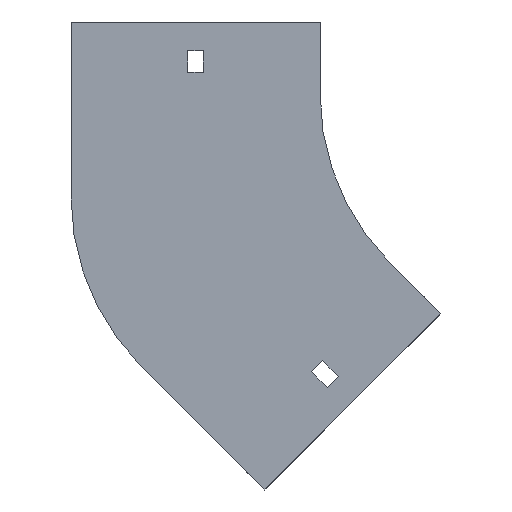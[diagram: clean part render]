
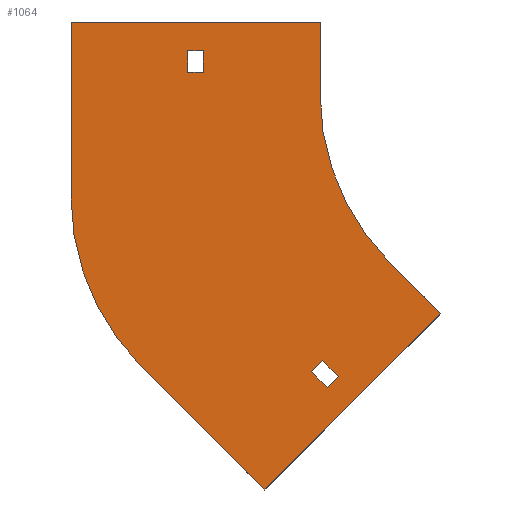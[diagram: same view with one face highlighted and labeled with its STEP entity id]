
A CAD part, front view. The second image highlights one B-rep face of the part: STEP entity #1064.
In plain terms, the highlighted planar face has unit normal (0, -1, 0).
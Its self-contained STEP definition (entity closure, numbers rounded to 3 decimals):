
#12 = DIRECTION ( 'NONE',  ( 0.707, 0., 0.707 ) ) ;
#22 = CARTESIAN_POINT ( 'NONE',  ( -204., 0., 30. ) ) ;
#47 = DIRECTION ( 'NONE',  ( -0.707, 0., -0.707 ) ) ;
#82 = LINE ( 'NONE', #236, #768 ) ;
#90 = DIRECTION ( 'NONE',  ( 0., 0., -1. ) ) ;
#92 = DIRECTION ( 'NONE',  ( 0., 0., -1. ) ) ;
#98 = CARTESIAN_POINT ( 'NONE',  ( -97.05, 0., -122.506 ) ) ;
#163 = VECTOR ( 'NONE', #1201, 1000. ) ;
#166 = ORIENTED_EDGE ( 'NONE', *, *, #261, .F. ) ;
#202 = EDGE_CURVE ( 'NONE', #447, #826, #564, .T. ) ;
#210 = FACE_OUTER_BOUND ( 'NONE', #704, .T. ) ;
#220 = FACE_BOUND ( 'NONE', #1244, .T. ) ;
#228 = EDGE_CURVE ( 'NONE', #1907, #346, #253, .T. ) ;
#234 = VECTOR ( 'NONE', #90, 1000. ) ;
#236 = CARTESIAN_POINT ( 'NONE',  ( -148.75, 0., 9. ) ) ;
#242 = DIRECTION ( 'NONE',  ( -1., 0., 0. ) ) ;
#246 = EDGE_LOOP ( 'NONE', ( #166, #1623, #1744, #288 ) ) ;
#253 = LINE ( 'NONE', #845, #1363 ) ;
#261 = EDGE_CURVE ( 'NONE', #826, #914, #727, .T. ) ;
#272 = DIRECTION ( 'NONE',  ( -0.707, 0., 0.707 ) ) ;
#279 = VECTOR ( 'NONE', #1741, 1000. ) ;
#288 = ORIENTED_EDGE ( 'NONE', *, *, #501, .F. ) ;
#297 = ORIENTED_EDGE ( 'NONE', *, *, #1025, .F. ) ;
#311 = AXIS2_PLACEMENT_3D ( 'NONE', #926, #1525, #661 ) ;
#328 = ORIENTED_EDGE ( 'NONE', *, *, #1524, .F. ) ;
#329 = DIRECTION ( 'NONE',  ( 0., 0., 1. ) ) ;
#345 = VECTOR ( 'NONE', #422, 1000. ) ;
#346 = VERTEX_POINT ( 'NONE', #22 ) ;
#360 = VECTOR ( 'NONE', #1219, 1000. ) ;
#362 = CARTESIAN_POINT ( 'NONE',  ( 0., 0., 0. ) ) ;
#367 = VECTOR ( 'NONE', #1431, 1000. ) ;
#422 = DIRECTION ( 'NONE',  ( 0., 0., 1. ) ) ;
#433 = CARTESIAN_POINT ( 'NONE',  ( -49.497, 0., -91.924 ) ) ;
#435 = CARTESIAN_POINT ( 'NONE',  ( -98.818, 0., -111.546 ) ) ;
#447 = VERTEX_POINT ( 'NONE', #1934 ) ;
#492 = DIRECTION ( 'NONE',  ( 0., 1., 0. ) ) ;
#499 = ORIENTED_EDGE ( 'NONE', *, *, #805, .F. ) ;
#501 = EDGE_CURVE ( 'NONE', #914, #676, #1180, .T. ) ;
#517 = DIRECTION ( 'NONE',  ( 0., 0., -1. ) ) ;
#525 = VERTEX_POINT ( 'NONE', #899 ) ;
#532 = DIRECTION ( 'NONE',  ( 1., 0., 0. ) ) ;
#538 = ORIENTED_EDGE ( 'NONE', *, *, #1894, .F. ) ;
#550 = LINE ( 'NONE', #1597, #234 ) ;
#555 = ORIENTED_EDGE ( 'NONE', *, *, #965, .F. ) ;
#564 = LINE ( 'NONE', #958, #367 ) ;
#588 = ORIENTED_EDGE ( 'NONE', *, *, #774, .T. ) ;
#609 = CARTESIAN_POINT ( 'NONE',  ( -100., 0., 30. ) ) ;
#618 = CIRCLE ( 'NONE', #1112, 100. ) ;
#658 = VERTEX_POINT ( 'NONE', #1408 ) ;
#661 = DIRECTION ( 'NONE',  ( 0., 0., -1. ) ) ;
#670 = CARTESIAN_POINT ( 'NONE',  ( -204., 0., -43.078 ) ) ;
#676 = VERTEX_POINT ( 'NONE', #1892 ) ;
#704 = EDGE_LOOP ( 'NONE', ( #328, #1511, #297, #992, #1101, #499, #555, #538 ) ) ;
#707 = CARTESIAN_POINT ( 'NONE',  ( -155.25, 0., 9. ) ) ;
#727 = LINE ( 'NONE', #1806, #862 ) ;
#743 = VERTEX_POINT ( 'NONE', #1309 ) ;
#755 = VERTEX_POINT ( 'NONE', #1158 ) ;
#758 = LINE ( 'NONE', #1213, #163 ) ;
#765 = DIRECTION ( 'NONE',  ( -0.707, 0., 0.707 ) ) ;
#768 = VECTOR ( 'NONE', #92, 1000. ) ;
#774 = EDGE_CURVE ( 'NONE', #1316, #1047, #852, .T. ) ;
#788 = CARTESIAN_POINT ( 'NONE',  ( -104., 0., -43.078 ) ) ;
#796 = FACE_BOUND ( 'NONE', #246, .T. ) ;
#805 = EDGE_CURVE ( 'NONE', #1345, #1678, #1606, .T. ) ;
#820 = EDGE_CURVE ( 'NONE', #755, #1316, #973, .T. ) ;
#823 = CARTESIAN_POINT ( 'NONE',  ( -70.711, 0., -70.711 ) ) ;
#826 = VERTEX_POINT ( 'NONE', #98 ) ;
#845 = CARTESIAN_POINT ( 'NONE',  ( -204., 0., -43.078 ) ) ;
#852 = LINE ( 'NONE', #707, #345 ) ;
#862 = VECTOR ( 'NONE', #12, 1000. ) ;
#865 = CIRCLE ( 'NONE', #311, 100. ) ;
#899 = CARTESIAN_POINT ( 'NONE',  ( -174.711, 0., -113.789 ) ) ;
#908 = ORIENTED_EDGE ( 'NONE', *, *, #1828, .T. ) ;
#914 = VERTEX_POINT ( 'NONE', #1485 ) ;
#926 = CARTESIAN_POINT ( 'NONE',  ( 0., 0., 0. ) ) ;
#941 = ORIENTED_EDGE ( 'NONE', *, *, #820, .T. ) ;
#947 = CARTESIAN_POINT ( 'NONE',  ( -123.037, 0., -165.463 ) ) ;
#949 = DIRECTION ( 'NONE',  ( 0., -1., 0. ) ) ;
#958 = CARTESIAN_POINT ( 'NONE',  ( -103.414, 0., -116.142 ) ) ;
#964 = CARTESIAN_POINT ( 'NONE',  ( -204., 0., 30. ) ) ;
#965 = EDGE_CURVE ( 'NONE', #1303, #1345, #865, .T. ) ;
#973 = LINE ( 'NONE', #1574, #1428 ) ;
#975 = VECTOR ( 'NONE', #47, 1000. ) ;
#992 = ORIENTED_EDGE ( 'NONE', *, *, #1710, .F. ) ;
#1025 = EDGE_CURVE ( 'NONE', #525, #1907, #618, .T. ) ;
#1047 = VERTEX_POINT ( 'NONE', #1533 ) ;
#1064 = ADVANCED_FACE ( 'NONE', ( #220, #210, #796 ), #1395, .T. ) ;
#1101 = ORIENTED_EDGE ( 'NONE', *, *, #1353, .F. ) ;
#1112 = AXIS2_PLACEMENT_3D ( 'NONE', #788, #492, #329 ) ;
#1158 = CARTESIAN_POINT ( 'NONE',  ( -148.75, 0., 9. ) ) ;
#1180 = LINE ( 'NONE', #435, #1205 ) ;
#1201 = DIRECTION ( 'NONE',  ( -0.707, 0., -0.707 ) ) ;
#1205 = VECTOR ( 'NONE', #272, 1000. ) ;
#1213 = CARTESIAN_POINT ( 'NONE',  ( -49.497, 0., -91.924 ) ) ;
#1219 = DIRECTION ( 'NONE',  ( 1., 0., 0. ) ) ;
#1244 = EDGE_LOOP ( 'NONE', ( #588, #1355, #908, #941 ) ) ;
#1257 = LINE ( 'NONE', #964, #360 ) ;
#1262 = AXIS2_PLACEMENT_3D ( 'NONE', #362, #949, #517 ) ;
#1303 = VERTEX_POINT ( 'NONE', #1471 ) ;
#1306 = VERTEX_POINT ( 'NONE', #609 ) ;
#1309 = CARTESIAN_POINT ( 'NONE',  ( -148.75, 0., 18. ) ) ;
#1316 = VERTEX_POINT ( 'NONE', #1800 ) ;
#1345 = VERTEX_POINT ( 'NONE', #1845 ) ;
#1353 = EDGE_CURVE ( 'NONE', #1678, #658, #758, .T. ) ;
#1355 = ORIENTED_EDGE ( 'NONE', *, *, #1885, .T. ) ;
#1363 = VECTOR ( 'NONE', #1438, 1000. ) ;
#1377 = CARTESIAN_POINT ( 'NONE',  ( -103.414, 0., -116.142 ) ) ;
#1395 = PLANE ( 'NONE',  #1262 ) ;
#1408 = CARTESIAN_POINT ( 'NONE',  ( -123.037, 0., -165.463 ) ) ;
#1428 = VECTOR ( 'NONE', #242, 1000. ) ;
#1431 = DIRECTION ( 'NONE',  ( 0.707, 0., -0.707 ) ) ;
#1438 = DIRECTION ( 'NONE',  ( 0., 0., 1. ) ) ;
#1471 = CARTESIAN_POINT ( 'NONE',  ( -100., 0., 0. ) ) ;
#1485 = CARTESIAN_POINT ( 'NONE',  ( -92.454, 0., -117.91 ) ) ;
#1511 = ORIENTED_EDGE ( 'NONE', *, *, #228, .F. ) ;
#1524 = EDGE_CURVE ( 'NONE', #346, #1306, #1257, .T. ) ;
#1525 = DIRECTION ( 'NONE',  ( 0., -1., 0. ) ) ;
#1528 = LINE ( 'NONE', #1377, #975 ) ;
#1533 = CARTESIAN_POINT ( 'NONE',  ( -155.25, 0., 18. ) ) ;
#1574 = CARTESIAN_POINT ( 'NONE',  ( -155.25, 0., 9. ) ) ;
#1584 = EDGE_CURVE ( 'NONE', #676, #447, #1528, .T. ) ;
#1597 = CARTESIAN_POINT ( 'NONE',  ( -100., 0., 30. ) ) ;
#1606 = LINE ( 'NONE', #823, #279 ) ;
#1623 = ORIENTED_EDGE ( 'NONE', *, *, #202, .F. ) ;
#1678 = VERTEX_POINT ( 'NONE', #433 ) ;
#1710 = EDGE_CURVE ( 'NONE', #658, #525, #1824, .T. ) ;
#1741 = DIRECTION ( 'NONE',  ( 0.707, 0., -0.707 ) ) ;
#1742 = CARTESIAN_POINT ( 'NONE',  ( -155.25, 0., 18. ) ) ;
#1744 = ORIENTED_EDGE ( 'NONE', *, *, #1584, .F. ) ;
#1800 = CARTESIAN_POINT ( 'NONE',  ( -155.25, 0., 9. ) ) ;
#1806 = CARTESIAN_POINT ( 'NONE',  ( -97.05, 0., -122.506 ) ) ;
#1824 = LINE ( 'NONE', #947, #1856 ) ;
#1828 = EDGE_CURVE ( 'NONE', #743, #755, #82, .T. ) ;
#1845 = CARTESIAN_POINT ( 'NONE',  ( -70.711, 0., -70.711 ) ) ;
#1856 = VECTOR ( 'NONE', #765, 1000. ) ;
#1863 = LINE ( 'NONE', #1742, #1950 ) ;
#1885 = EDGE_CURVE ( 'NONE', #1047, #743, #1863, .T. ) ;
#1892 = CARTESIAN_POINT ( 'NONE',  ( -98.818, 0., -111.546 ) ) ;
#1894 = EDGE_CURVE ( 'NONE', #1306, #1303, #550, .T. ) ;
#1907 = VERTEX_POINT ( 'NONE', #670 ) ;
#1934 = CARTESIAN_POINT ( 'NONE',  ( -103.414, 0., -116.142 ) ) ;
#1950 = VECTOR ( 'NONE', #532, 1000. ) ;
